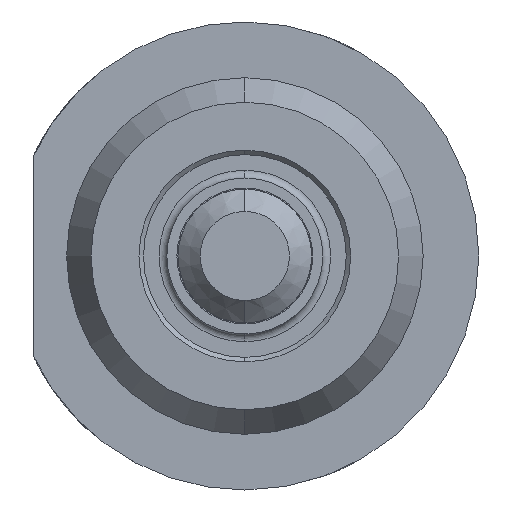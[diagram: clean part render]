
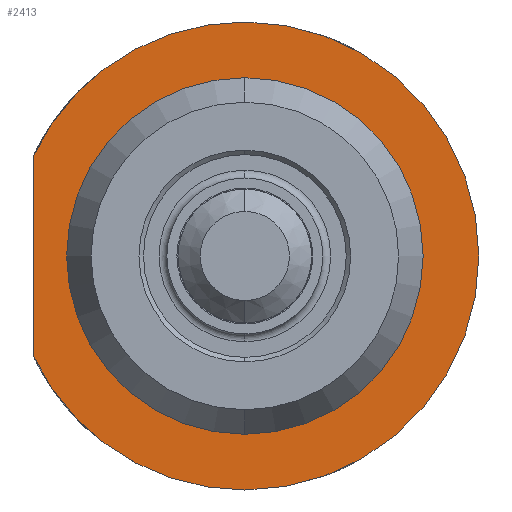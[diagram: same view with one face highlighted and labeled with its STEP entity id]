
A CAD part, left-side view. The second image highlights one B-rep face of the part: STEP entity #2413.
In plain terms, the highlighted planar face has unit normal (-1, 0, 0).
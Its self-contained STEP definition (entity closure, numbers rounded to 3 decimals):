
#416 = CARTESIAN_POINT ( 'NONE',  ( 18., 0., 0. ) ) ;
#417 = DIRECTION ( 'NONE',  ( -1., 0., 0. ) ) ;
#418 = DIRECTION ( 'NONE',  ( 0., 0., 1. ) ) ;
#2217 = EDGE_CURVE ( 'NONE', #5857, #5919, #3503, .T. ) ;
#2229 = EDGE_CURVE ( 'NONE', #5919, #5862, #3512, .T. ) ;
#2240 = EDGE_CURVE ( 'NONE', #5862, #6062, #3528, .T. ) ;
#2244 = EDGE_CURVE ( 'NONE', #5857, #6062, #3536, .T. ) ;
#2247 = EDGE_CURVE ( 'NONE', #5868, #5898, #3537, .T. ) ;
#2413 = ADVANCED_FACE ( 'NONE', ( #3750, #3768 ), #4957, .F. ) ;
#2780 = ORIENTED_EDGE ( 'NONE', *, *, #7503, .F. ) ;
#2781 = ORIENTED_EDGE ( 'NONE', *, *, #2247, .F. ) ;
#2782 = ORIENTED_EDGE ( 'NONE', *, *, #2244, .F. ) ;
#2783 = ORIENTED_EDGE ( 'NONE', *, *, #2217, .T. ) ;
#2784 = ORIENTED_EDGE ( 'NONE', *, *, #2229, .T. ) ;
#2785 = ORIENTED_EDGE ( 'NONE', *, *, #2240, .T. ) ;
#3503 = CIRCLE ( 'NONE', #6885, 10.5 ) ;
#3512 = CIRCLE ( 'NONE', #6889, 10.5 ) ;
#3528 = CIRCLE ( 'NONE', #4335, 10.5 ) ;
#3536 = LINE ( 'NONE', #4189, #3538 ) ;
#3537 = CIRCLE ( 'NONE', #4339, 8. ) ;
#3538 = VECTOR ( 'NONE', #4177, 1000. ) ;
#3750 = FACE_BOUND ( 'NONE', #7347, .T. ) ;
#3768 = FACE_OUTER_BOUND ( 'NONE', #7353, .T. ) ;
#4094 = CARTESIAN_POINT ( 'NONE',  ( 18., 0., 0. ) ) ;
#4095 = DIRECTION ( 'NONE',  ( -1., 0., 0. ) ) ;
#4096 = DIRECTION ( 'NONE',  ( 0., 0., -1. ) ) ;
#4136 = CARTESIAN_POINT ( 'NONE',  ( 18., 0., 0. ) ) ;
#4137 = DIRECTION ( 'NONE',  ( -1., 0., 0. ) ) ;
#4138 = DIRECTION ( 'NONE',  ( 0., 0., -1. ) ) ;
#4177 = DIRECTION ( 'NONE',  ( 0., 0., 1. ) ) ;
#4182 = CARTESIAN_POINT ( 'NONE',  ( 18., 0., 0. ) ) ;
#4183 = DIRECTION ( 'NONE',  ( -1., 0., 0. ) ) ;
#4184 = DIRECTION ( 'NONE',  ( 0., 0., -1. ) ) ;
#4189 = CARTESIAN_POINT ( 'NONE',  ( 18., 9.5, 0. ) ) ;
#4198 = CARTESIAN_POINT ( 'NONE',  ( 18., 0., 0. ) ) ;
#4199 = DIRECTION ( 'NONE',  ( -1., 0., 0. ) ) ;
#4200 = DIRECTION ( 'NONE',  ( 0., 0., 1. ) ) ;
#4335 = AXIS2_PLACEMENT_3D ( 'NONE', #4182, #4183, #4184 ) ;
#4339 = AXIS2_PLACEMENT_3D ( 'NONE', #4198, #4199, #4200 ) ;
#4453 = AXIS2_PLACEMENT_3D ( 'NONE', #4954, #4959, #4960 ) ;
#4954 = CARTESIAN_POINT ( 'NONE',  ( 18., -8., 0. ) ) ;
#4957 = PLANE ( 'NONE',  #4453 ) ;
#4959 = DIRECTION ( 'NONE',  ( 1., 0., 0. ) ) ;
#4960 = DIRECTION ( 'NONE',  ( 0., 0., -1. ) ) ;
#5273 = CARTESIAN_POINT ( 'NONE',  ( 18., 9.5, -4.472 ) ) ;
#5289 = CARTESIAN_POINT ( 'NONE',  ( 18., 0., 10.5 ) ) ;
#5294 = CARTESIAN_POINT ( 'NONE',  ( 18., 0., -8. ) ) ;
#5307 = CARTESIAN_POINT ( 'NONE',  ( 18., 0., 8. ) ) ;
#5308 = CARTESIAN_POINT ( 'NONE',  ( 18., 0., -10.5 ) ) ;
#5319 = CARTESIAN_POINT ( 'NONE',  ( 18., 9.5, 4.472 ) ) ;
#5711 = AXIS2_PLACEMENT_3D ( 'NONE', #416, #417, #418 ) ;
#5857 = VERTEX_POINT ( 'NONE', #5273 ) ;
#5862 = VERTEX_POINT ( 'NONE', #5289 ) ;
#5868 = VERTEX_POINT ( 'NONE', #5294 ) ;
#5898 = VERTEX_POINT ( 'NONE', #5307 ) ;
#5919 = VERTEX_POINT ( 'NONE', #5308 ) ;
#6062 = VERTEX_POINT ( 'NONE', #5319 ) ;
#6885 = AXIS2_PLACEMENT_3D ( 'NONE', #4094, #4095, #4096 ) ;
#6889 = AXIS2_PLACEMENT_3D ( 'NONE', #4136, #4137, #4138 ) ;
#7347 = EDGE_LOOP ( 'NONE', ( #2780, #2781 ) ) ;
#7353 = EDGE_LOOP ( 'NONE', ( #2782, #2783, #2784, #2785 ) ) ;
#7503 = EDGE_CURVE ( 'NONE', #5898, #5868, #8781, .T. ) ;
#8781 = CIRCLE ( 'NONE', #5711, 8. ) ;
